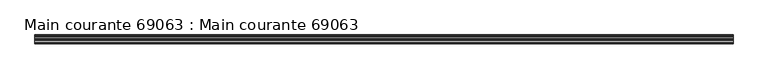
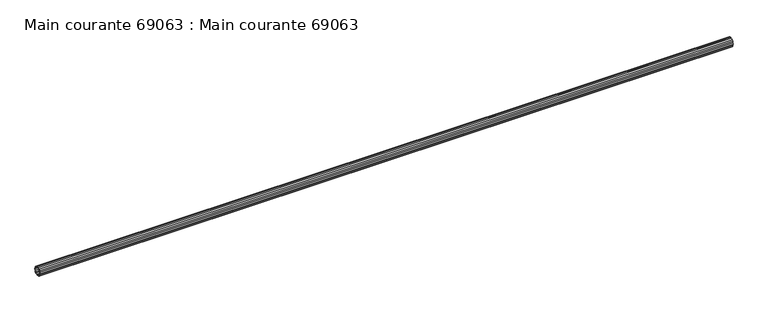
"""IFC4 building model written with IfcOpenShell, lengths in millimetres: beam geometry, Main courante 69063 : Main courante 69063."""

from ifc_helpers import new_model, si_unit, frame, origin, place, context, project, spatial, polyline, outline, extrude, source, transform, mapped, element, save


def main_courante_69063_main_courante_69063_7cb552a2(model_context):
    return source(origin(), model_context, "Body", "SweptSolid", [
        extrude(outline(polyline([(-35749.8127604, 9262.9680149), (-35742.35, 9264.15), (-35734.8872396, 9262.9680149), (-35728.1549862, 9259.5377604), (-35722.8122396, 9254.1950138), (-35719.3819851, 9247.4627604), (-35718.2, 9240.0), (-35719.3819851, 9232.5372396), (-35722.8122396, 9225.8049862), (-35728.1549862, 9220.4622396), (-35734.8872396, 9217.0319851), (-35742.35, 9215.85), (-35749.8127604, 9217.0319851), (-35756.5450138, 9220.4622396), (-35761.8877604, 9225.8049862), (-35765.3180149, 9232.5372396), (-35766.5, 9240.0), (-35765.3180149, 9247.4627604), (-35761.8877604, 9254.1950138), (-35756.5450138, 9259.5377604), (-35749.8127604, 9262.9680149)]), holes=[polyline([(-35720.7, 9240.0), (-35721.7596264, 9246.6902179), (-35724.8347821, 9252.7255507), (-35729.6244493, 9257.5152179), (-35735.6597821, 9260.5903736), (-35742.35, 9261.65), (-35749.0402179, 9260.5903736), (-35755.0755507, 9257.5152179), (-35759.8652179, 9252.7255507), (-35762.9403736, 9246.6902179), (-35764.0, 9240.0), (-35762.9403736, 9233.3097821), (-35759.8652179, 9227.2744493), (-35755.0755507, 9222.4847821), (-35749.0402179, 9219.4096264), (-35742.35, 9218.35), (-35735.6597821, 9219.4096264), (-35729.6244493, 9222.4847821), (-35724.8347821, 9227.2744493), (-35721.7596264, 9233.3097821), (-35720.7, 9240.0)])]), frame((-79.5105653, 0.0, 0.0), z_axis=(1.0, 0.0, 0.0), x_axis=(0.0, 1.0, 0.0)), (0.0, 0.0, 1.0), 3762.0105652),
    ])


if __name__ == "__main__":
    model = new_model("IFC4")
    model_context = context("Model", 3, world=origin())
    ifc_project = project(units=[si_unit("LENGTHUNIT", "METRE", prefix="MILLI")], contexts=[model_context])
    site = spatial("IfcSite", under=ifc_project)
    building = spatial("IfcBuilding", under=site)
    placement = place(None, origin())
    main_courante_69063_main_courante_69063_shape = main_courante_69063_main_courante_69063_7cb552a2(model_context)
    element("IfcBeam", 1, ObjectType="Main courante 69063 : Main courante 69063", at=placement, inside=building, context=model_context, shape_type="MappedRepresentation", body=[
        mapped(main_courante_69063_main_courante_69063_shape, transform((0.0, 0.0, 0.0), x_axis=(1.0, 0.0, 0.0), y_axis=(0.0, 1.0, 0.0), z_axis=(0.0, 0.0, 1.0))),
    ])
    save(model, "model.ifc")
